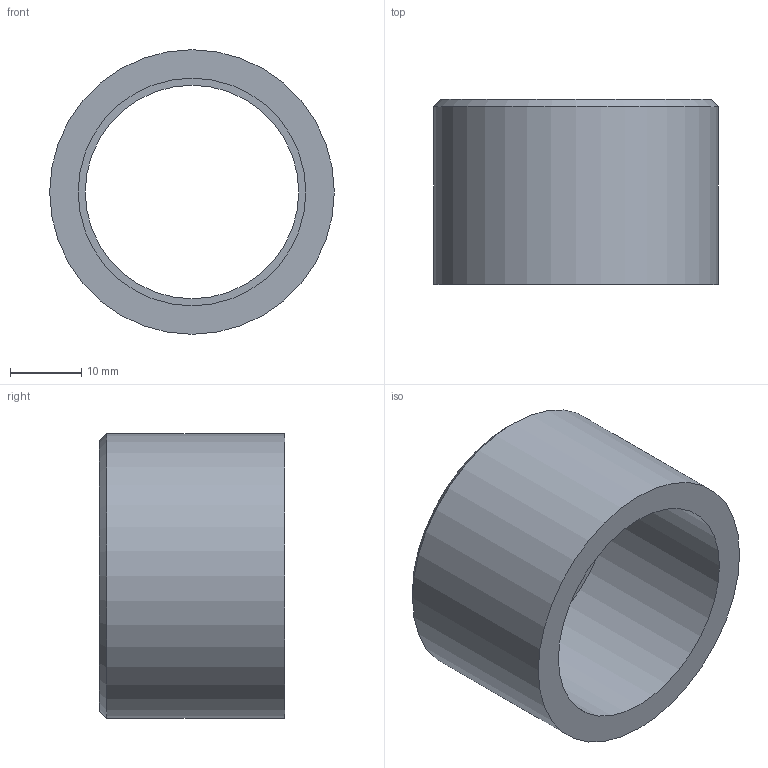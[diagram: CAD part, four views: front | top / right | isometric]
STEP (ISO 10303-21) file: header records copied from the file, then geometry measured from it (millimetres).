
FILE_DESCRIPTION(/* description */ ('PVC riduzione corta incollaggio metrica'),/* implementation_level */ '2;1');
FILE_NAME(/* name */ 'C:\Users\POLYPIPE\Desktop\DATASET INVENTOR\LIBRERIA EFFAST\RACCORDI 3DxWEB\RDR\3D_RDRRCD\3D_RDRRCD040D.stp',/* time_stamp */ '2018-01-19T15:30:00+01:00',/* author */ ('POLYPIPE'),/* organization */ ('Polypipe Italia s.r.l.'),/* preprocessor_version */ 'ST-DEVELOPER v16.1',/* originating_system */ 'Autodesk Inventor 2016',/* authorisation */ '');
FILE_SCHEMA (('CONFIG_CONTROL_DESIGN'));
Length unit declared in the file: millimetre
Products named in the file (1): 3D_RDRRCD
Bounding box: 40 x 26 x 40 mm (x, y, z)
Volume: 11863.7 mm3; surface area: 6775.9 mm2
Topology: 1 solids, 1 shells, 8 faces, 13 edges, 8 vertices
Faces by surface type: plane 3, cylinder 3, cone 2
Full cylindrical faces by diameter (mm): 30 x1, 32 x1, 40 x1
Entity records: 192 total; most frequent: DIRECTION 34, CARTESIAN_POINT 25, AXIS2_PLACEMENT_3D 17, EDGE_LOOP 16, ORIENTED_EDGE 16, FACE_BOUND 8, FACE_OUTER_BOUND 8, CIRCLE 8
